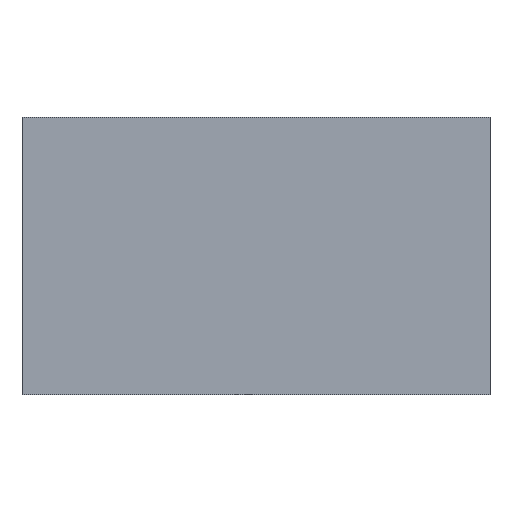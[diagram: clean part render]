
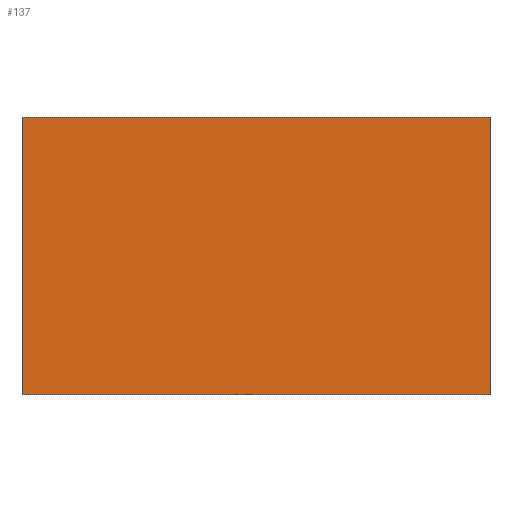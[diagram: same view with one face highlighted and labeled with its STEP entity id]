
A CAD part, front view. The second image highlights one B-rep face of the part: STEP entity #137.
In plain terms, the highlighted planar face has unit normal (0, -1, 0).
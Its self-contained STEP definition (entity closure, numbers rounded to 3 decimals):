
#21 = EDGE_CURVE('',#22,#24,#26,.T.);
#22 = VERTEX_POINT('',#23);
#23 = CARTESIAN_POINT('',(0.,0.,0.));
#24 = VERTEX_POINT('',#25);
#25 = CARTESIAN_POINT('',(0.,0.,19.));
#26 = SURFACE_CURVE('',#27,(#31,#43),.PCURVE_S1.);
#27 = LINE('',#28,#29);
#28 = CARTESIAN_POINT('',(0.,0.,0.));
#29 = VECTOR('',#30,1.);
#30 = DIRECTION('',(0.,0.,1.));
#31 = PCURVE('',#32,#37);
#32 = PLANE('',#33);
#33 = AXIS2_PLACEMENT_3D('',#34,#35,#36);
#34 = CARTESIAN_POINT('',(0.,0.,0.));
#35 = DIRECTION('',(1.,0.,0.));
#36 = DIRECTION('',(0.,0.,1.));
#37 = DEFINITIONAL_REPRESENTATION('',(#38),#42);
#38 = LINE('',#39,#40);
#39 = CARTESIAN_POINT('',(0.,0.));
#40 = VECTOR('',#41,1.);
#41 = DIRECTION('',(1.,0.));
#42 = ( GEOMETRIC_REPRESENTATION_CONTEXT(2) 
PARAMETRIC_REPRESENTATION_CONTEXT() REPRESENTATION_CONTEXT('2D SPACE',''
  ) );
#43 = PCURVE('',#44,#49);
#44 = PLANE('',#45);
#45 = AXIS2_PLACEMENT_3D('',#46,#47,#48);
#46 = CARTESIAN_POINT('',(0.,0.,0.));
#47 = DIRECTION('',(0.,1.,0.));
#48 = DIRECTION('',(0.,0.,1.));
#49 = DEFINITIONAL_REPRESENTATION('',(#50),#54);
#50 = LINE('',#51,#52);
#51 = CARTESIAN_POINT('',(0.,0.));
#52 = VECTOR('',#53,1.);
#53 = DIRECTION('',(1.,0.));
#54 = ( GEOMETRIC_REPRESENTATION_CONTEXT(2) 
PARAMETRIC_REPRESENTATION_CONTEXT() REPRESENTATION_CONTEXT('2D SPACE',''
  ) );
#72 = PLANE('',#73);
#73 = AXIS2_PLACEMENT_3D('',#74,#75,#76);
#74 = CARTESIAN_POINT('',(0.,0.,0.));
#75 = DIRECTION('',(0.,0.,1.));
#76 = DIRECTION('',(1.,0.,0.));
#126 = PLANE('',#127);
#127 = AXIS2_PLACEMENT_3D('',#128,#129,#130);
#128 = CARTESIAN_POINT('',(0.,0.,19.));
#129 = DIRECTION('',(0.,0.,1.));
#130 = DIRECTION('',(1.,0.,0.));
#137 = ADVANCED_FACE('',(#138),#44,.F.);
#138 = FACE_BOUND('',#139,.F.);
#139 = EDGE_LOOP('',(#140,#163,#164,#187));
#140 = ORIENTED_EDGE('',*,*,#141,.F.);
#141 = EDGE_CURVE('',#22,#142,#144,.T.);
#142 = VERTEX_POINT('',#143);
#143 = CARTESIAN_POINT('',(32.,0.,0.));
#144 = SURFACE_CURVE('',#145,(#149,#156),.PCURVE_S1.);
#145 = LINE('',#146,#147);
#146 = CARTESIAN_POINT('',(0.,0.,0.));
#147 = VECTOR('',#148,1.);
#148 = DIRECTION('',(1.,0.,0.));
#149 = PCURVE('',#44,#150);
#150 = DEFINITIONAL_REPRESENTATION('',(#151),#155);
#151 = LINE('',#152,#153);
#152 = CARTESIAN_POINT('',(0.,0.));
#153 = VECTOR('',#154,1.);
#154 = DIRECTION('',(0.,1.));
#155 = ( GEOMETRIC_REPRESENTATION_CONTEXT(2) 
PARAMETRIC_REPRESENTATION_CONTEXT() REPRESENTATION_CONTEXT('2D SPACE',''
  ) );
#156 = PCURVE('',#72,#157);
#157 = DEFINITIONAL_REPRESENTATION('',(#158),#162);
#158 = LINE('',#159,#160);
#159 = CARTESIAN_POINT('',(0.,0.));
#160 = VECTOR('',#161,1.);
#161 = DIRECTION('',(1.,0.));
#162 = ( GEOMETRIC_REPRESENTATION_CONTEXT(2) 
PARAMETRIC_REPRESENTATION_CONTEXT() REPRESENTATION_CONTEXT('2D SPACE',''
  ) );
#163 = ORIENTED_EDGE('',*,*,#21,.T.);
#164 = ORIENTED_EDGE('',*,*,#165,.T.);
#165 = EDGE_CURVE('',#24,#166,#168,.T.);
#166 = VERTEX_POINT('',#167);
#167 = CARTESIAN_POINT('',(32.,0.,19.));
#168 = SURFACE_CURVE('',#169,(#173,#180),.PCURVE_S1.);
#169 = LINE('',#170,#171);
#170 = CARTESIAN_POINT('',(0.,0.,19.));
#171 = VECTOR('',#172,1.);
#172 = DIRECTION('',(1.,0.,0.));
#173 = PCURVE('',#44,#174);
#174 = DEFINITIONAL_REPRESENTATION('',(#175),#179);
#175 = LINE('',#176,#177);
#176 = CARTESIAN_POINT('',(19.,0.));
#177 = VECTOR('',#178,1.);
#178 = DIRECTION('',(0.,1.));
#179 = ( GEOMETRIC_REPRESENTATION_CONTEXT(2) 
PARAMETRIC_REPRESENTATION_CONTEXT() REPRESENTATION_CONTEXT('2D SPACE',''
  ) );
#180 = PCURVE('',#126,#181);
#181 = DEFINITIONAL_REPRESENTATION('',(#182),#186);
#182 = LINE('',#183,#184);
#183 = CARTESIAN_POINT('',(0.,0.));
#184 = VECTOR('',#185,1.);
#185 = DIRECTION('',(1.,0.));
#186 = ( GEOMETRIC_REPRESENTATION_CONTEXT(2) 
PARAMETRIC_REPRESENTATION_CONTEXT() REPRESENTATION_CONTEXT('2D SPACE',''
  ) );
#187 = ORIENTED_EDGE('',*,*,#188,.F.);
#188 = EDGE_CURVE('',#142,#166,#189,.T.);
#189 = SURFACE_CURVE('',#190,(#194,#201),.PCURVE_S1.);
#190 = LINE('',#191,#192);
#191 = CARTESIAN_POINT('',(32.,0.,0.));
#192 = VECTOR('',#193,1.);
#193 = DIRECTION('',(0.,0.,1.));
#194 = PCURVE('',#44,#195);
#195 = DEFINITIONAL_REPRESENTATION('',(#196),#200);
#196 = LINE('',#197,#198);
#197 = CARTESIAN_POINT('',(0.,32.));
#198 = VECTOR('',#199,1.);
#199 = DIRECTION('',(1.,0.));
#200 = ( GEOMETRIC_REPRESENTATION_CONTEXT(2) 
PARAMETRIC_REPRESENTATION_CONTEXT() REPRESENTATION_CONTEXT('2D SPACE',''
  ) );
#201 = PCURVE('',#202,#207);
#202 = PLANE('',#203);
#203 = AXIS2_PLACEMENT_3D('',#204,#205,#206);
#204 = CARTESIAN_POINT('',(32.,0.,0.));
#205 = DIRECTION('',(1.,0.,0.));
#206 = DIRECTION('',(0.,0.,1.));
#207 = DEFINITIONAL_REPRESENTATION('',(#208),#212);
#208 = LINE('',#209,#210);
#209 = CARTESIAN_POINT('',(0.,0.));
#210 = VECTOR('',#211,1.);
#211 = DIRECTION('',(1.,0.));
#212 = ( GEOMETRIC_REPRESENTATION_CONTEXT(2) 
PARAMETRIC_REPRESENTATION_CONTEXT() REPRESENTATION_CONTEXT('2D SPACE',''
  ) );
